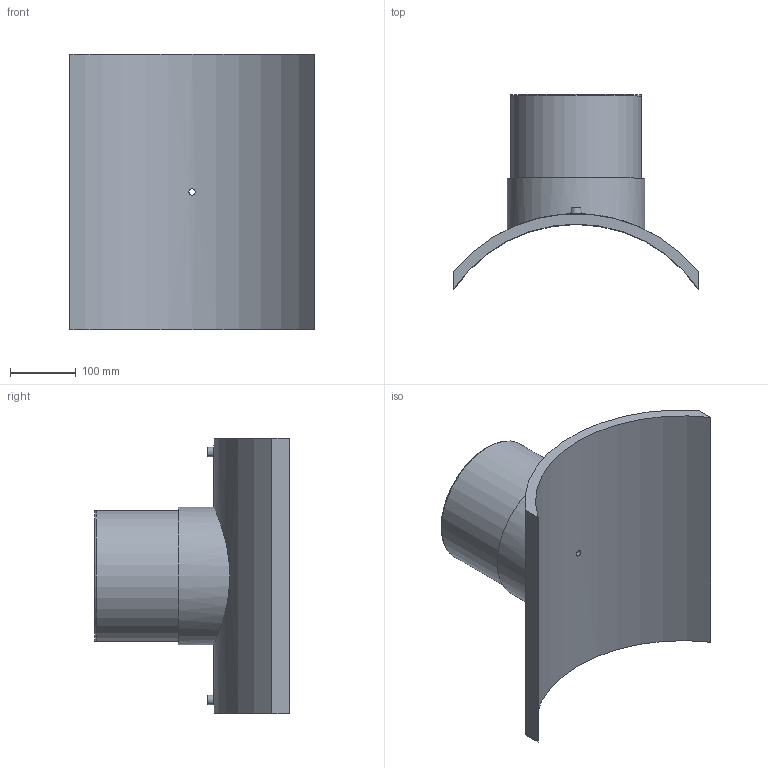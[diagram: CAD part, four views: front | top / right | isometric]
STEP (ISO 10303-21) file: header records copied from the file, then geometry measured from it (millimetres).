
FILE_DESCRIPTION(/* description */ ('PLASSON BRANCH SADDLE 400-450x200'),/* implementation_level */ '2;1');
FILE_NAME(/* name */ 'C:\Dropbox\KIMPROJECTS-Inventor 2019\99-16-3568-Processing\ElectroFusion Fittings\495803\stp\495803450200TN.stp',/* time_stamp */ '2024-04-04T11:51:20+02:00',/* author */ ('KIM'),/* organization */ (''),/* preprocessor_version */ 'ST-DEVELOPER v17.2',/* originating_system */ 'Autodesk Inventor 2019',/* authorisation */ '');
FILE_SCHEMA (('AUTOMOTIVE_DESIGN { 1 0 10303 214 3 1 1 }'));
Length unit declared in the file: millimetre
Products named in the file (1): 495803450200TN
Bounding box: 373 x 297.13 x 420 mm (x, y, z)
Volume: 5287865.1 mm3; surface area: 626902.9 mm2
Topology: 1 solids, 1 shells, 29 faces, 60 edges, 43 vertices
Faces by surface type: plane 13, cylinder 12, torus 2, cone 2
Full cylindrical faces by diameter (mm): 4 x2, 9.6 x1, 10 x2, 16 x1, 160 x1, 200 x1, 210 x1
Entity records: 1086 total; most frequent: CARTESIAN_POINT 400, DIRECTION 139, ORIENTED_EDGE 120, EDGE_CURVE 60, AXIS2_PLACEMENT_3D 60, VERTEX_POINT 43, EDGE_LOOP 41, CIRCLE 30
